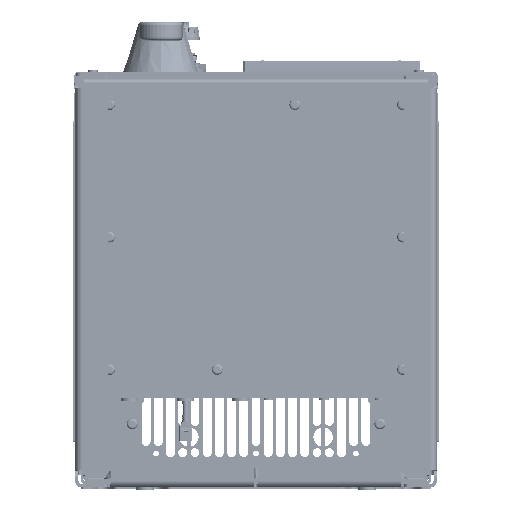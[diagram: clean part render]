
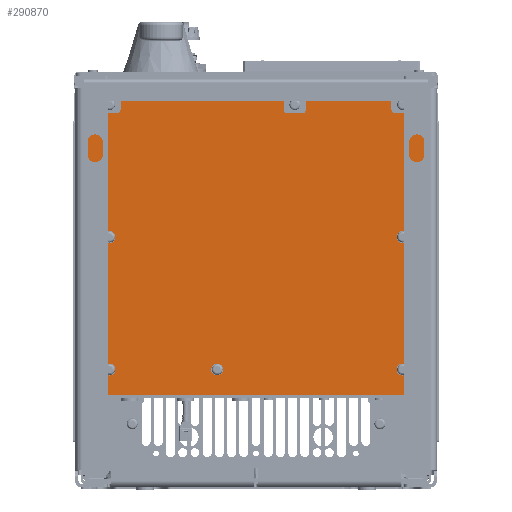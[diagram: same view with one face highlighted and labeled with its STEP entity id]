
A CAD part, front view. The second image highlights one B-rep face of the part: STEP entity #290870.
In plain terms, the highlighted planar face has unit normal (0, -1, 0) as drawn and (0, 0, 1) by its records, which use the part's own axes.
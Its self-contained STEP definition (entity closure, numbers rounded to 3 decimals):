
#290263=CARTESIAN_POINT('',(0.,132.,1.9));
#290264=DIRECTION('',(0.,0.,1.));
#290265=DIRECTION('',(0.,-1.,0.));
#290266=AXIS2_PLACEMENT_3D('',#290263,#290264,#290265);
#290271=CARTESIAN_POINT('',(0.,132.,1.9));
#290272=DIRECTION('',(0.,0.,1.));
#290273=DIRECTION('',(0.,1.,0.));
#290274=AXIS2_PLACEMENT_3D('',#290271,#290272,#290273);
#290279=CARTESIAN_POINT('',(119.3,132.,1.9));
#290280=DIRECTION('',(0.,0.,1.));
#290281=DIRECTION('',(0.,-1.,0.));
#290282=AXIS2_PLACEMENT_3D('',#290279,#290280,#290281);
#290287=CARTESIAN_POINT('',(119.3,132.,1.9));
#290288=DIRECTION('',(0.,0.,1.));
#290289=DIRECTION('',(0.,1.,0.));
#290290=AXIS2_PLACEMENT_3D('',#290287,#290288,#290289);
#290295=CARTESIAN_POINT('',(-119.3,132.,1.9));
#290296=DIRECTION('',(0.,0.,1.));
#290297=DIRECTION('',(0.,-1.,0.));
#290298=AXIS2_PLACEMENT_3D('',#290295,#290296,#290297);
#290303=CARTESIAN_POINT('',(-119.3,132.,1.9));
#290304=DIRECTION('',(0.,0.,1.));
#290305=DIRECTION('',(0.,1.,0.));
#290306=AXIS2_PLACEMENT_3D('',#290303,#290304,#290305);
#290311=CARTESIAN_POINT('',(0.,-132.,1.9));
#290312=DIRECTION('',(0.,0.,1.));
#290313=DIRECTION('',(0.,-1.,0.));
#290314=AXIS2_PLACEMENT_3D('',#290311,#290312,#290313);
#290319=CARTESIAN_POINT('',(0.,-132.,1.9));
#290320=DIRECTION('',(0.,0.,1.));
#290321=DIRECTION('',(0.,1.,0.));
#290322=AXIS2_PLACEMENT_3D('',#290319,#290320,#290321);
#290327=CARTESIAN_POINT('',(119.3,-35.,1.9));
#290328=DIRECTION('',(0.,0.,1.));
#290329=DIRECTION('',(0.,-1.,0.));
#290330=AXIS2_PLACEMENT_3D('',#290327,#290328,#290329);
#290335=CARTESIAN_POINT('',(119.3,-35.,1.9));
#290336=DIRECTION('',(0.,0.,1.));
#290337=DIRECTION('',(0.,1.,0.));
#290338=AXIS2_PLACEMENT_3D('',#290335,#290336,#290337);
#290343=CARTESIAN_POINT('',(119.3,-132.,1.9));
#290344=DIRECTION('',(0.,0.,1.));
#290345=DIRECTION('',(0.,-1.,0.));
#290346=AXIS2_PLACEMENT_3D('',#290343,#290344,#290345);
#290351=CARTESIAN_POINT('',(119.3,-132.,1.9));
#290352=DIRECTION('',(0.,0.,1.));
#290353=DIRECTION('',(0.,1.,0.));
#290354=AXIS2_PLACEMENT_3D('',#290351,#290352,#290353);
#290359=CARTESIAN_POINT('',(-119.3,35.,1.9));
#290360=DIRECTION('',(0.,0.,1.));
#290361=DIRECTION('',(0.,-1.,0.));
#290362=AXIS2_PLACEMENT_3D('',#290359,#290360,#290361);
#290367=CARTESIAN_POINT('',(-119.3,35.,1.9));
#290368=DIRECTION('',(0.,0.,1.));
#290369=DIRECTION('',(0.,1.,0.));
#290370=AXIS2_PLACEMENT_3D('',#290367,#290368,#290369);
#290375=CARTESIAN_POINT('',(-119.3,-132.,1.9));
#290376=DIRECTION('',(0.,0.,1.));
#290377=DIRECTION('',(0.,-1.,0.));
#290378=AXIS2_PLACEMENT_3D('',#290375,#290376,#290377);
#290383=CARTESIAN_POINT('',(-119.3,-132.,1.9));
#290384=DIRECTION('',(0.,0.,1.));
#290385=DIRECTION('',(0.,1.,0.));
#290386=AXIS2_PLACEMENT_3D('',#290383,#290384,#290385);
#290391=CARTESIAN_POINT('',(-137.,-146.,1.9));
#290392=DIRECTION('',(0.,0.,1.));
#290393=DIRECTION('',(-1.,0.,0.));
#290394=AXIS2_PLACEMENT_3D('',#290391,#290392,#290393);
#290399=DIRECTION('',(0.,-1.,0.));
#290400=VECTOR('',#290399,292.);
#290401=CARTESIAN_POINT('',(-142.,146.,1.9));
#290402=LINE('',#290401,#290400);
#290406=CARTESIAN_POINT('',(-137.,146.,1.9));
#290407=DIRECTION('',(0.,0.,1.));
#290408=DIRECTION('',(0.,1.,0.));
#290409=AXIS2_PLACEMENT_3D('',#290406,#290407,#290408);
#290414=DIRECTION('',(-1.,0.,0.));
#290415=VECTOR('',#290414,274.);
#290416=CARTESIAN_POINT('',(137.,151.,1.9));
#290417=LINE('',#290416,#290415);
#290421=CARTESIAN_POINT('',(137.,146.,1.9));
#290422=DIRECTION('',(0.,0.,1.));
#290423=DIRECTION('',(1.,0.,0.));
#290424=AXIS2_PLACEMENT_3D('',#290421,#290422,#290423);
#290429=DIRECTION('',(0.,1.,0.));
#290430=VECTOR('',#290429,292.);
#290431=CARTESIAN_POINT('',(142.,-146.,1.9));
#290432=LINE('',#290431,#290430);
#290436=CARTESIAN_POINT('',(137.,-146.,1.9));
#290437=DIRECTION('',(0.,0.,1.));
#290438=DIRECTION('',(0.,-1.,0.));
#290439=AXIS2_PLACEMENT_3D('',#290436,#290437,#290438);
#290444=DIRECTION('',(1.,0.,0.));
#290445=VECTOR('',#290444,274.);
#290446=CARTESIAN_POINT('',(-137.,-151.,1.9));
#290447=LINE('',#290446,#290445);
#290621=CARTESIAN_POINT('',(-119.3,-135.25,1.9));
#290622=CARTESIAN_POINT('',(-119.3,-128.75,1.9));
#290623=VERTEX_POINT('',#290621);
#290624=VERTEX_POINT('',#290622);
#290625=CARTESIAN_POINT('',(-119.3,31.75,1.9));
#290626=CARTESIAN_POINT('',(-119.3,38.25,1.9));
#290627=VERTEX_POINT('',#290625);
#290628=VERTEX_POINT('',#290626);
#290629=CARTESIAN_POINT('',(119.3,-135.25,1.9));
#290630=CARTESIAN_POINT('',(119.3,-128.75,1.9));
#290631=VERTEX_POINT('',#290629);
#290632=VERTEX_POINT('',#290630);
#290633=CARTESIAN_POINT('',(119.3,-38.25,1.9));
#290634=CARTESIAN_POINT('',(119.3,-31.75,1.9));
#290635=VERTEX_POINT('',#290633);
#290636=VERTEX_POINT('',#290634);
#290653=CARTESIAN_POINT('',(0.,-135.25,1.9));
#290654=CARTESIAN_POINT('',(0.,-128.75,1.9));
#290655=VERTEX_POINT('',#290653);
#290656=VERTEX_POINT('',#290654);
#290657=CARTESIAN_POINT('',(-119.3,128.75,1.9));
#290658=CARTESIAN_POINT('',(-119.3,135.25,1.9));
#290659=VERTEX_POINT('',#290657);
#290660=VERTEX_POINT('',#290658);
#290661=CARTESIAN_POINT('',(119.3,128.75,1.9));
#290662=CARTESIAN_POINT('',(119.3,135.25,1.9));
#290663=VERTEX_POINT('',#290661);
#290664=VERTEX_POINT('',#290662);
#290665=CARTESIAN_POINT('',(0.,128.75,1.9));
#290666=CARTESIAN_POINT('',(0.,135.25,1.9));
#290667=VERTEX_POINT('',#290665);
#290668=VERTEX_POINT('',#290666);
#290673=CARTESIAN_POINT('',(-142.,-146.,1.9));
#290674=VERTEX_POINT('',#290673);
#290675=CARTESIAN_POINT('',(-137.,-151.,1.9));
#290676=VERTEX_POINT('',#290675);
#290681=CARTESIAN_POINT('',(-137.,151.,1.9));
#290682=VERTEX_POINT('',#290681);
#290683=CARTESIAN_POINT('',(-142.,146.,1.9));
#290684=VERTEX_POINT('',#290683);
#290689=CARTESIAN_POINT('',(142.,146.,1.9));
#290690=VERTEX_POINT('',#290689);
#290691=CARTESIAN_POINT('',(137.,151.,1.9));
#290692=VERTEX_POINT('',#290691);
#290697=CARTESIAN_POINT('',(137.,-151.,1.9));
#290698=VERTEX_POINT('',#290697);
#290699=CARTESIAN_POINT('',(142.,-146.,1.9));
#290700=VERTEX_POINT('',#290699);
#290801=CARTESIAN_POINT('',(0.,0.,1.9));
#290802=DIRECTION('',(0.,0.,1.));
#290803=DIRECTION('',(0.,1.,0.));
#290804=AXIS2_PLACEMENT_3D('',#290801,#290802,#290803);
#290805=PLANE('',#290804);
#290807=ORIENTED_EDGE('',*,*,#290806,.F.);
#290809=ORIENTED_EDGE('',*,*,#290808,.F.);
#290811=ORIENTED_EDGE('',*,*,#290810,.F.);
#290813=ORIENTED_EDGE('',*,*,#290812,.F.);
#290815=ORIENTED_EDGE('',*,*,#290814,.F.);
#290817=ORIENTED_EDGE('',*,*,#290816,.F.);
#290819=ORIENTED_EDGE('',*,*,#290818,.F.);
#290821=ORIENTED_EDGE('',*,*,#290820,.F.);
#290822=EDGE_LOOP('',(#290807,#290809,#290811,#290813,#290815,#290817,#290819,
#290821));
#290823=FACE_OUTER_BOUND('',#290822,.F.);
#290825=ORIENTED_EDGE('',*,*,#290824,.T.);
#290827=ORIENTED_EDGE('',*,*,#290826,.T.);
#290828=EDGE_LOOP('',(#290825,#290827));
#290829=FACE_BOUND('',#290828,.F.);
#290831=ORIENTED_EDGE('',*,*,#290830,.T.);
#290833=ORIENTED_EDGE('',*,*,#290832,.T.);
#290834=EDGE_LOOP('',(#290831,#290833));
#290835=FACE_BOUND('',#290834,.F.);
#290837=ORIENTED_EDGE('',*,*,#290836,.T.);
#290839=ORIENTED_EDGE('',*,*,#290838,.T.);
#290840=EDGE_LOOP('',(#290837,#290839));
#290841=FACE_BOUND('',#290840,.F.);
#290843=ORIENTED_EDGE('',*,*,#290842,.T.);
#290845=ORIENTED_EDGE('',*,*,#290844,.T.);
#290846=EDGE_LOOP('',(#290843,#290845));
#290847=FACE_BOUND('',#290846,.F.);
#290849=ORIENTED_EDGE('',*,*,#290848,.T.);
#290851=ORIENTED_EDGE('',*,*,#290850,.T.);
#290852=EDGE_LOOP('',(#290849,#290851));
#290853=FACE_BOUND('',#290852,.F.);
#290855=ORIENTED_EDGE('',*,*,#290854,.T.);
#290857=ORIENTED_EDGE('',*,*,#290856,.T.);
#290858=EDGE_LOOP('',(#290855,#290857));
#290859=FACE_BOUND('',#290858,.F.);
#290860=ORIENTED_EDGE('',*,*,#290781,.T.);
#290861=ORIENTED_EDGE('',*,*,#290795,.T.);
#290862=EDGE_LOOP('',(#290860,#290861));
#290863=FACE_BOUND('',#290862,.F.);
#290865=ORIENTED_EDGE('',*,*,#290864,.T.);
#290867=ORIENTED_EDGE('',*,*,#290866,.T.);
#290868=EDGE_LOOP('',(#290865,#290867));
#290869=FACE_BOUND('',#290868,.F.);
#290870=ADVANCED_FACE('',(#290823,#290829,#290835,#290841,#290847,#290853,
#290859,#290863,#290869),#290805,.T.);
#290267=CIRCLE('',#290266,3.25);
#290275=CIRCLE('',#290274,3.25);
#290283=CIRCLE('',#290282,3.25);
#290291=CIRCLE('',#290290,3.25);
#290299=CIRCLE('',#290298,3.25);
#290307=CIRCLE('',#290306,3.25);
#290315=CIRCLE('',#290314,3.25);
#290323=CIRCLE('',#290322,3.25);
#290331=CIRCLE('',#290330,3.25);
#290339=CIRCLE('',#290338,3.25);
#290347=CIRCLE('',#290346,3.25);
#290355=CIRCLE('',#290354,3.25);
#290363=CIRCLE('',#290362,3.25);
#290371=CIRCLE('',#290370,3.25);
#290379=CIRCLE('',#290378,3.25);
#290387=CIRCLE('',#290386,3.25);
#290395=CIRCLE('',#290394,5.);
#290410=CIRCLE('',#290409,5.);
#290425=CIRCLE('',#290424,5.);
#290440=CIRCLE('',#290439,5.);
#290781=EDGE_CURVE('',#290623,#290624,#290379,.T.);
#290795=EDGE_CURVE('',#290624,#290623,#290387,.T.);
#290806=EDGE_CURVE('',#290674,#290676,#290395,.T.);
#290808=EDGE_CURVE('',#290684,#290674,#290402,.T.);
#290810=EDGE_CURVE('',#290682,#290684,#290410,.T.);
#290812=EDGE_CURVE('',#290692,#290682,#290417,.T.);
#290814=EDGE_CURVE('',#290690,#290692,#290425,.T.);
#290816=EDGE_CURVE('',#290700,#290690,#290432,.T.);
#290818=EDGE_CURVE('',#290698,#290700,#290440,.T.);
#290820=EDGE_CURVE('',#290676,#290698,#290447,.T.);
#290824=EDGE_CURVE('',#290663,#290664,#290283,.T.);
#290826=EDGE_CURVE('',#290664,#290663,#290291,.T.);
#290830=EDGE_CURVE('',#290659,#290660,#290299,.T.);
#290832=EDGE_CURVE('',#290660,#290659,#290307,.T.);
#290836=EDGE_CURVE('',#290655,#290656,#290315,.T.);
#290838=EDGE_CURVE('',#290656,#290655,#290323,.T.);
#290842=EDGE_CURVE('',#290635,#290636,#290331,.T.);
#290844=EDGE_CURVE('',#290636,#290635,#290339,.T.);
#290848=EDGE_CURVE('',#290631,#290632,#290347,.T.);
#290850=EDGE_CURVE('',#290632,#290631,#290355,.T.);
#290854=EDGE_CURVE('',#290627,#290628,#290363,.T.);
#290856=EDGE_CURVE('',#290628,#290627,#290371,.T.);
#290864=EDGE_CURVE('',#290667,#290668,#290267,.T.);
#290866=EDGE_CURVE('',#290668,#290667,#290275,.T.);
